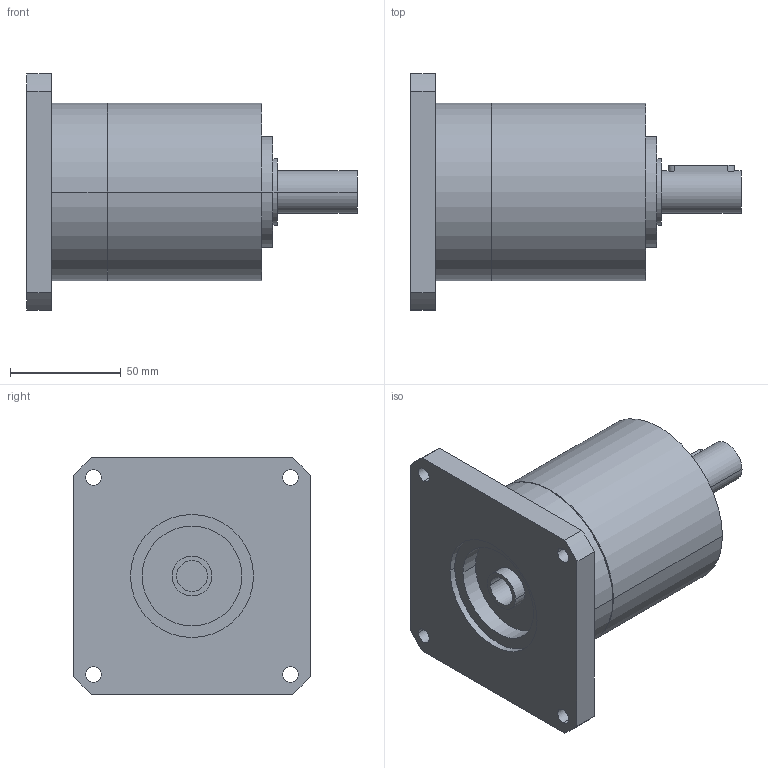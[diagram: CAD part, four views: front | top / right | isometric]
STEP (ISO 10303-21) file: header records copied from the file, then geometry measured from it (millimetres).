
FILE_DESCRIPTION(('CoCreate Modeling STEP Export'),'2;1');
FILE_NAME('GPR100_ig-3-4-5-6_19_B14_14_P02.stp','2014-08-26T10:07:01',(''),(''),'CoCreate Modeling STEP processor for AP214 (Solid Model)','CoCreate Modeling 16.00C 25-Feb-2009 (C) Parametric Technology GmbH','');
FILE_SCHEMA(('AUTOMOTIVE_DESIGN { 1 0 10303 214 1 1 1 1 }'));
Length unit declared in the file: millimetre
Products named in the file (2): GPR100_ig-3-4-5-6_19_B14_14_P02
Assembly tree (1 placements, depth 2):
  GPR100_ig-3-4-5-6_19_B14_14_P02
    GPR100_ig-3-4-5-6_19_B14_14_P02
Bounding box: 149 x 106.5 x 106.5 mm (x, y, z)
Volume: 596218.3 mm3; surface area: 59793.7 mm2
Topology: 1 solids, 1 shells, 70 faces, 189 edges, 133 vertices
Faces by surface type: cylinder 42, plane 22, cone 6
Entity records: 1944 total; most frequent: ORIENTED_EDGE 374, CARTESIAN_POINT 361, DIRECTION 262, EDGE_CURVE 187, VERTEX_POINT 133, AXIS2_PLACEMENT_3D 98, EDGE_LOOP 92, FACE_OUTER_BOUND 70
